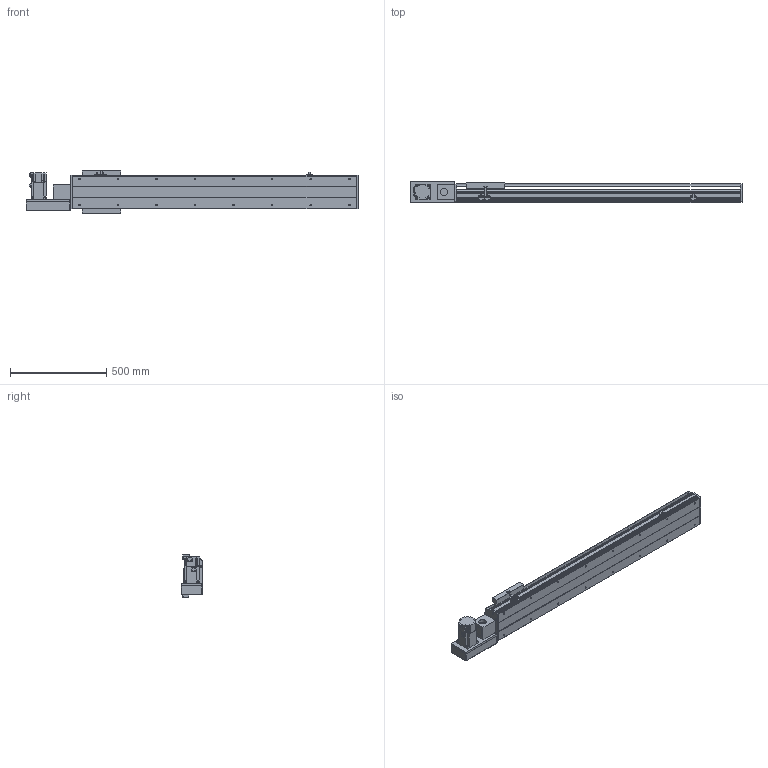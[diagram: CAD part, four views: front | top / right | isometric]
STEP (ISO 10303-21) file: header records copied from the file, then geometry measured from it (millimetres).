
FILE_DESCRIPTION(/* description */ ('STEP AP214'),/* implementation_level */ '2;1');
FILE_NAME(/* name */ 'PBS200-P40-S1100-L-T75-C1-N(0)',/* time_stamp */ '2022-06-11T07:48:48+02:00',/* author */ ('License CC BY-ND 4.0'),/* organization */ ('CADENAS'),/* preprocessor_version */ 'ST-DEVELOPER v18.102',/* originating_system */ 'PARTsolutions',/* authorisation */ ' ');
FILE_SCHEMA (('AUTOMOTIVE_DESIGN {1 0 10303 214 3 1 1}'));
Length unit declared in the file: millimetre
Products named in the file (7): PBS200-P40-S1100-L-T75-C1-N(0); PBS200_sensor; PBS200_plant; PBS200_sliser; T75-p1; PBS200T-L_motors; PBS200-S1100()_body
Assembly tree (8 placements, depth 2):
  PBS200-P40-S1100-L-T75-C1-N(0)
    PBS200_sensor  x3
    PBS200_plant
    PBS200_sliser
    T75-p1
    PBS200T-L_motors
    PBS200-S1100()_body
Bounding box: 1722 x 109 x 221 mm (x, y, z)
Volume: 11862108.7 mm3; surface area: 1917780.5 mm2
Topology: 8 solids, 8 shells, 920 faces, 2374 edges, 1548 vertices
Faces by surface type: plane 574, cylinder 298, cone 48
Full cylindrical faces by diameter (mm): 2.459 x6, 3.242 x4, 4.5 x6, 4.917 x4, 5 x6, 6 x7, 6.6 x8, 6.647 x20, 8 x6, 10 x4, 12 x8, 38 x2, 40 x1, 70 x1
Entity records: 24581 total; most frequent: DIRECTION 4327, CARTESIAN_POINT 4192, ORIENTED_EDGE 3982, EDGE_CURVE 1991, AXIS2_PLACEMENT_3D 1507, VERTEX_POINT 1372, LINE 1313, VECTOR 1313
